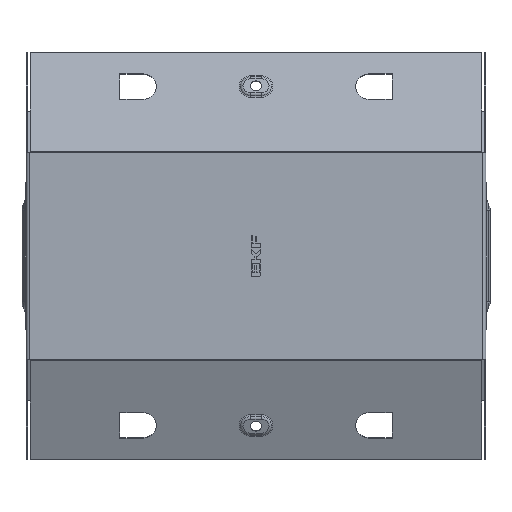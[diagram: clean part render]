
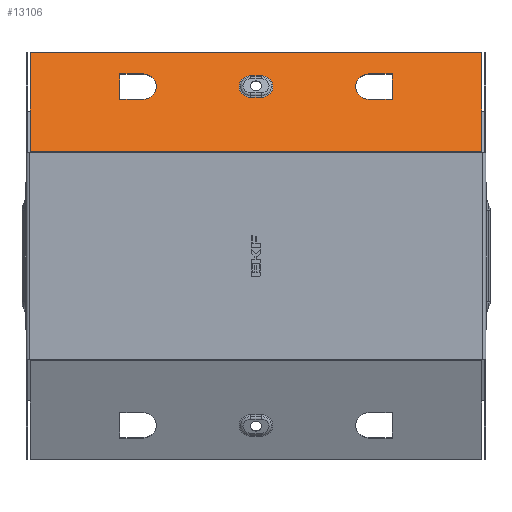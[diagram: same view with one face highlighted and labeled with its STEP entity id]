
A CAD part, front view. The second image highlights one B-rep face of the part: STEP entity #13106.
In plain terms, the highlighted planar face has unit normal (0, -0.924, 0.383).
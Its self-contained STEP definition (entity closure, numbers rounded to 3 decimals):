
#33 = CARTESIAN_POINT ( 'NONE',  ( -3.5, -86.093, 103.581 ) ) ;
#77 = LINE ( 'NONE', #6712, #428 ) ;
#128 = VECTOR ( 'NONE', #2777, 1000. ) ;
#139 = EDGE_CURVE ( 'NONE', #14511, #13984, #3142, .T. ) ;
#184 = ORIENTED_EDGE ( 'NONE', *, *, #5881, .T. ) ;
#271 = LINE ( 'NONE', #12683, #11279 ) ;
#313 = PLANE ( 'NONE',  #6533 ) ;
#320 = DIRECTION ( 'NONE',  ( -1., 0., 0. ) ) ;
#428 = VECTOR ( 'NONE', #10122, 1000. ) ;
#500 = CARTESIAN_POINT ( 'NONE',  ( -89., -86.629, 102.286 ) ) ;
#623 = CARTESIAN_POINT ( 'NONE',  ( -147.299, -74.001, 132.774 ) ) ;
#848 = VECTOR ( 'NONE', #3852, 1000. ) ;
#917 = CIRCLE ( 'NONE', #7354, 7.598 ) ;
#1062 = CARTESIAN_POINT ( 'NONE',  ( -3.5, -80.277, 117.621 ) ) ;
#1230 = EDGE_CURVE ( 'NONE', #2035, #8220, #6675, .T. ) ;
#1335 = VECTOR ( 'NONE', #320, 1000. ) ;
#1345 = LINE ( 'NONE', #6381, #14087 ) ;
#1420 = EDGE_CURVE ( 'NONE', #14388, #11543, #11524, .T. ) ;
#1437 = CARTESIAN_POINT ( 'NONE',  ( 74., -79.741, 118.916 ) ) ;
#1485 = FACE_BOUND ( 'NONE', #5568, .T. ) ;
#1487 = CARTESIAN_POINT ( 'NONE',  ( 3.5, -86.093, 103.581 ) ) ;
#1694 = VECTOR ( 'NONE', #5391, 1000. ) ;
#1800 = CARTESIAN_POINT ( 'NONE',  ( 3.5, -83.185, 110.601 ) ) ;
#1934 = VECTOR ( 'NONE', #3160, 1000. ) ;
#2035 = VERTEX_POINT ( 'NONE', #1062 ) ;
#2127 = CARTESIAN_POINT ( 'NONE',  ( -89., -79.741, 118.916 ) ) ;
#2147 = CARTESIAN_POINT ( 'NONE',  ( -147.299, -100.663, 68.406 ) ) ;
#2777 = DIRECTION ( 'NONE',  ( -1., 0., 0. ) ) ;
#3142 = LINE ( 'NONE', #14153, #848 ) ;
#3160 = DIRECTION ( 'NONE',  ( 0., 0.383, 0.924 ) ) ;
#3284 = EDGE_CURVE ( 'NONE', #12189, #8183, #271, .T. ) ;
#3370 = ORIENTED_EDGE ( 'NONE', *, *, #5883, .T. ) ;
#3536 = DIRECTION ( 'NONE',  ( -1., 0., 0. ) ) ;
#3808 = CARTESIAN_POINT ( 'NONE',  ( -89., -79.741, 118.916 ) ) ;
#3852 = DIRECTION ( 'NONE',  ( -1., 0., 0. ) ) ;
#3887 = CARTESIAN_POINT ( 'NONE',  ( 147.299, -74.001, 132.774 ) ) ;
#3977 = DIRECTION ( 'NONE',  ( -1., 0., 0. ) ) ;
#4272 = EDGE_LOOP ( 'NONE', ( #13100, #3370, #10001, #8607 ) ) ;
#4383 = CARTESIAN_POINT ( 'NONE',  ( 89., -79.741, 118.916 ) ) ;
#4456 = ORIENTED_EDGE ( 'NONE', *, *, #7229, .T. ) ;
#4730 = EDGE_CURVE ( 'NONE', #12247, #2035, #7969, .T. ) ;
#4933 = EDGE_CURVE ( 'NONE', #11204, #12247, #7415, .T. ) ;
#4994 = LINE ( 'NONE', #14077, #9484 ) ;
#5007 = LINE ( 'NONE', #13290, #6624 ) ;
#5339 = CARTESIAN_POINT ( 'NONE',  ( -74., -83.185, 110.601 ) ) ;
#5391 = DIRECTION ( 'NONE',  ( 0., 0.383, 0.924 ) ) ;
#5396 = DIRECTION ( 'NONE',  ( 0., 0.383, 0.924 ) ) ;
#5428 = VERTEX_POINT ( 'NONE', #623 ) ;
#5568 = EDGE_LOOP ( 'NONE', ( #7394, #184, #14372, #6395 ) ) ;
#5805 = LINE ( 'NONE', #12566, #13302 ) ;
#5881 = EDGE_CURVE ( 'NONE', #8220, #11204, #917, .T. ) ;
#5883 = EDGE_CURVE ( 'NONE', #6479, #12189, #10007, .T. ) ;
#5935 = EDGE_CURVE ( 'NONE', #9760, #9482, #12282, .T. ) ;
#6029 = AXIS2_PLACEMENT_3D ( 'NONE', #6507, #7784, #5396 ) ;
#6094 = DIRECTION ( 'NONE',  ( 1., 0., 0. ) ) ;
#6144 = ORIENTED_EDGE ( 'NONE', *, *, #7456, .T. ) ;
#6213 = CARTESIAN_POINT ( 'NONE',  ( 3.5, -86.093, 103.581 ) ) ;
#6267 = LINE ( 'NONE', #11983, #1694 ) ;
#6337 = CARTESIAN_POINT ( 'NONE',  ( -74., -79.741, 118.916 ) ) ;
#6381 = CARTESIAN_POINT ( 'NONE',  ( 89., -79.741, 118.916 ) ) ;
#6389 = DIRECTION ( 'NONE',  ( 0., 0.383, 0.924 ) ) ;
#6395 = ORIENTED_EDGE ( 'NONE', *, *, #4730, .T. ) ;
#6427 = DIRECTION ( 'NONE',  ( 0., -0.383, -0.924 ) ) ;
#6479 = VERTEX_POINT ( 'NONE', #14267 ) ;
#6507 = CARTESIAN_POINT ( 'NONE',  ( -3.5, -83.185, 110.601 ) ) ;
#6511 = EDGE_CURVE ( 'NONE', #8183, #11520, #1345, .T. ) ;
#6533 = AXIS2_PLACEMENT_3D ( 'NONE', #10494, #11673, #12668 ) ;
#6624 = VECTOR ( 'NONE', #3536, 1000. ) ;
#6675 = LINE ( 'NONE', #10521, #9327 ) ;
#6712 = CARTESIAN_POINT ( 'NONE',  ( -74., -79.741, 118.916 ) ) ;
#7229 = EDGE_CURVE ( 'NONE', #9482, #14388, #13065, .T. ) ;
#7290 = DIRECTION ( 'NONE',  ( 1., 0., 0. ) ) ;
#7301 = ORIENTED_EDGE ( 'NONE', *, *, #7657, .T. ) ;
#7354 = AXIS2_PLACEMENT_3D ( 'NONE', #1800, #14277, #7514 ) ;
#7394 = ORIENTED_EDGE ( 'NONE', *, *, #1230, .T. ) ;
#7415 = LINE ( 'NONE', #6213, #128 ) ;
#7456 = EDGE_CURVE ( 'NONE', #14511, #13725, #6267, .T. ) ;
#7514 = DIRECTION ( 'NONE',  ( 0., 0.383, 0.924 ) ) ;
#7547 = FACE_BOUND ( 'NONE', #8215, .T. ) ;
#7657 = EDGE_CURVE ( 'NONE', #11543, #9760, #77, .T. ) ;
#7784 = DIRECTION ( 'NONE',  ( 0., 0.924, -0.383 ) ) ;
#7969 = CIRCLE ( 'NONE', #6029, 7.598 ) ;
#8034 = ORIENTED_EDGE ( 'NONE', *, *, #139, .F. ) ;
#8042 = AXIS2_PLACEMENT_3D ( 'NONE', #8608, #12156, #6389 ) ;
#8183 = VERTEX_POINT ( 'NONE', #4383 ) ;
#8215 = EDGE_LOOP ( 'NONE', ( #9332, #7301, #13768, #4456 ) ) ;
#8220 = VERTEX_POINT ( 'NONE', #10460 ) ;
#8296 = CARTESIAN_POINT ( 'NONE',  ( 89., -86.629, 102.286 ) ) ;
#8607 = ORIENTED_EDGE ( 'NONE', *, *, #6511, .T. ) ;
#8608 = CARTESIAN_POINT ( 'NONE',  ( 74., -83.185, 110.601 ) ) ;
#8610 = FACE_BOUND ( 'NONE', #4272, .T. ) ;
#9327 = VECTOR ( 'NONE', #7290, 1000. ) ;
#9332 = ORIENTED_EDGE ( 'NONE', *, *, #1420, .T. ) ;
#9482 = VERTEX_POINT ( 'NONE', #9749 ) ;
#9484 = VECTOR ( 'NONE', #3977, 1000. ) ;
#9516 = CARTESIAN_POINT ( 'NONE',  ( -74., -86.629, 102.286 ) ) ;
#9749 = CARTESIAN_POINT ( 'NONE',  ( -74., -86.629, 102.286 ) ) ;
#9760 = VERTEX_POINT ( 'NONE', #6337 ) ;
#9968 = DIRECTION ( 'NONE',  ( 0., 0.924, -0.383 ) ) ;
#10001 = ORIENTED_EDGE ( 'NONE', *, *, #3284, .T. ) ;
#10007 = CIRCLE ( 'NONE', #8042, 9. ) ;
#10069 = ORIENTED_EDGE ( 'NONE', *, *, #13704, .T. ) ;
#10122 = DIRECTION ( 'NONE',  ( 1., 0., 0. ) ) ;
#10226 = FACE_OUTER_BOUND ( 'NONE', #10869, .T. ) ;
#10441 = DIRECTION ( 'NONE',  ( 0., -0.383, -0.924 ) ) ;
#10460 = CARTESIAN_POINT ( 'NONE',  ( 3.5, -80.277, 117.621 ) ) ;
#10491 = ORIENTED_EDGE ( 'NONE', *, *, #14082, .T. ) ;
#10494 = CARTESIAN_POINT ( 'NONE',  ( 148.2, -100.8, 68.075 ) ) ;
#10521 = CARTESIAN_POINT ( 'NONE',  ( 3.5, -80.277, 117.621 ) ) ;
#10799 = CARTESIAN_POINT ( 'NONE',  ( 147.299, -100.663, 68.406 ) ) ;
#10869 = EDGE_LOOP ( 'NONE', ( #10491, #8034, #6144, #10069 ) ) ;
#10940 = DIRECTION ( 'NONE',  ( 0., -0.383, -0.924 ) ) ;
#11204 = VERTEX_POINT ( 'NONE', #1487 ) ;
#11279 = VECTOR ( 'NONE', #6094, 1000. ) ;
#11520 = VERTEX_POINT ( 'NONE', #8296 ) ;
#11524 = LINE ( 'NONE', #2127, #1934 ) ;
#11543 = VERTEX_POINT ( 'NONE', #3808 ) ;
#11673 = DIRECTION ( 'NONE',  ( 0., 0.924, -0.383 ) ) ;
#11983 = CARTESIAN_POINT ( 'NONE',  ( 147.299, -100.864, 67.921 ) ) ;
#12156 = DIRECTION ( 'NONE',  ( 0., 0.924, -0.383 ) ) ;
#12189 = VERTEX_POINT ( 'NONE', #1437 ) ;
#12247 = VERTEX_POINT ( 'NONE', #33 ) ;
#12282 = CIRCLE ( 'NONE', #14175, 9. ) ;
#12566 = CARTESIAN_POINT ( 'NONE',  ( -147.299, -100.8, 68.075 ) ) ;
#12668 = DIRECTION ( 'NONE',  ( 0., 0.383, 0.924 ) ) ;
#12683 = CARTESIAN_POINT ( 'NONE',  ( 74., -79.741, 118.916 ) ) ;
#13065 = LINE ( 'NONE', #9516, #1335 ) ;
#13100 = ORIENTED_EDGE ( 'NONE', *, *, #13276, .T. ) ;
#13106 = ADVANCED_FACE ( 'NONE', ( #8610, #7547, #1485, #10226 ), #313, .F. ) ;
#13276 = EDGE_CURVE ( 'NONE', #11520, #6479, #5007, .T. ) ;
#13290 = CARTESIAN_POINT ( 'NONE',  ( 74., -86.629, 102.286 ) ) ;
#13302 = VECTOR ( 'NONE', #10441, 1000. ) ;
#13704 = EDGE_CURVE ( 'NONE', #13725, #5428, #4994, .T. ) ;
#13725 = VERTEX_POINT ( 'NONE', #3887 ) ;
#13768 = ORIENTED_EDGE ( 'NONE', *, *, #5935, .T. ) ;
#13984 = VERTEX_POINT ( 'NONE', #2147 ) ;
#14077 = CARTESIAN_POINT ( 'NONE',  ( 148.2, -74.001, 132.774 ) ) ;
#14082 = EDGE_CURVE ( 'NONE', #5428, #13984, #5805, .T. ) ;
#14087 = VECTOR ( 'NONE', #6427, 1000. ) ;
#14153 = CARTESIAN_POINT ( 'NONE',  ( 148.2, -100.663, 68.406 ) ) ;
#14175 = AXIS2_PLACEMENT_3D ( 'NONE', #5339, #9968, #10940 ) ;
#14267 = CARTESIAN_POINT ( 'NONE',  ( 74., -86.629, 102.286 ) ) ;
#14277 = DIRECTION ( 'NONE',  ( 0., 0.924, -0.383 ) ) ;
#14372 = ORIENTED_EDGE ( 'NONE', *, *, #4933, .T. ) ;
#14388 = VERTEX_POINT ( 'NONE', #500 ) ;
#14511 = VERTEX_POINT ( 'NONE', #10799 ) ;
